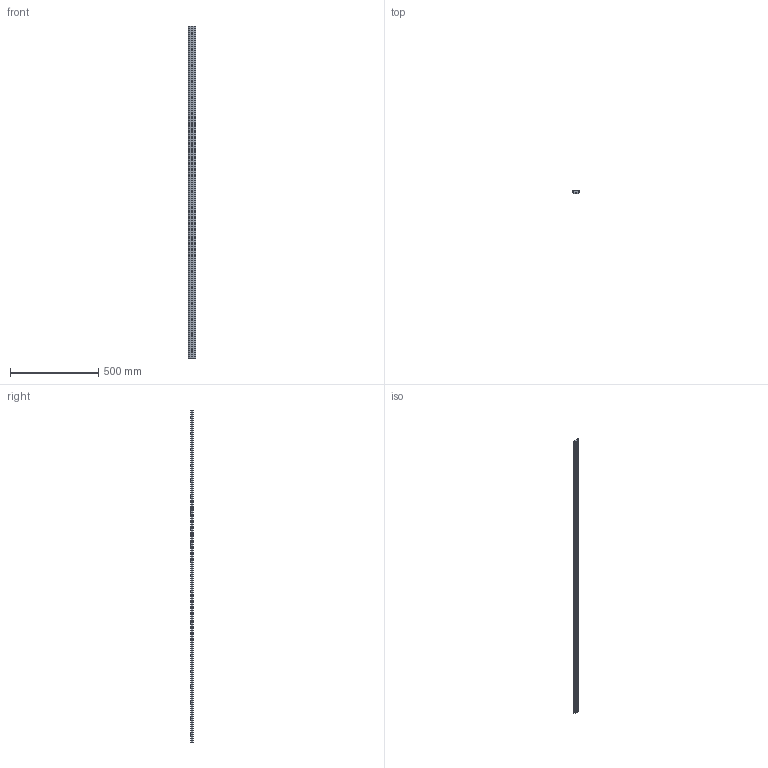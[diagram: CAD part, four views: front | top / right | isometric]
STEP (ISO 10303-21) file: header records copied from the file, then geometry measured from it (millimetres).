
FILE_DESCRIPTION(('STEP AP203'),'1');
FILE_NAME('slide_nm44l1886p1.stp','2022-07-01T04:39:47',('TraceParts'),('TraceParts S.A.'),'Spatial InterOp 3D',' ',' ');
FILE_SCHEMA(('CONFIG_CONTROL_DESIGN'));
Length unit declared in the file: millimetre
Products named in the file (1): 1
Bounding box: 43.61 x 15.5 x 1886 mm (x, y, z)
Volume: 815457.7 mm3; surface area: 228666.4 mm2
Topology: 1 solids, 1 shells, 137 faces, 342 edges, 228 vertices
Faces by surface type: cylinder 98, plane 39
Entity records: 4320 total; most frequent: DIRECTION 814, CARTESIAN_POINT 708, ORIENTED_EDGE 684, EDGE_CURVE 342, AXIS2_PLACEMENT_3D 334, VERTEX_POINT 228, EDGE_LOOP 200, CIRCLE 196
